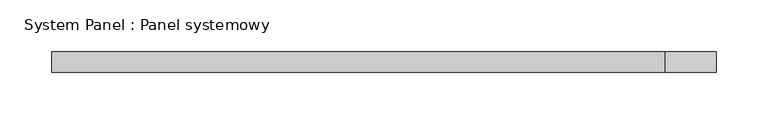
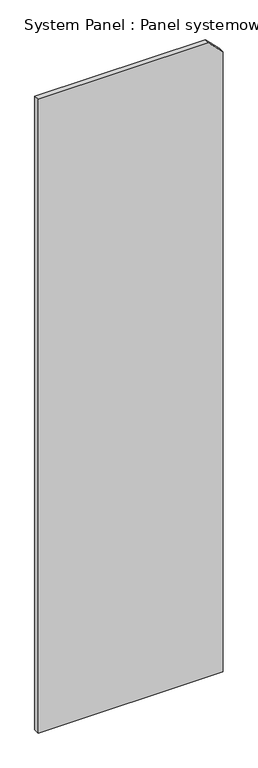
"""IFC4 building model written with IfcOpenShell, lengths in millimetres: plate geometry, System Panel : Panel systemowy."""

from ifc_helpers import new_model, si_unit, frame, origin, place, context, project, spatial, polyline, outline, extrude, source, transform, mapped, element, save


def system_panel_panel_systemowy_d53f1bdc(model_context):
    return source(origin(), model_context, "Body", "SweptSolid", [
        extrude(outline(polyline([(0.0, -320.8333333), (0.0, 320.8333333), (2275.7359314, 320.8333333), (2325.0, 271.5692647), (2325.0, -320.8333333), (0.0, -320.8333333)])), frame((0.0, -10.0, 0.0), z_axis=(0.0, 1.0, 0.0), x_axis=(0.0, 0.0, 1.0)), (0.0, 0.0, 1.0), 20.0),
    ])


if __name__ == "__main__":
    model = new_model("IFC4")
    model_context = context("Model", 3, world=origin())
    ifc_project = project(units=[si_unit("LENGTHUNIT", "METRE", prefix="MILLI")], contexts=[model_context])
    site = spatial("IfcSite", under=ifc_project)
    building = spatial("IfcBuilding", under=site)
    placement = place(None, origin())
    system_panel_panel_systemowy_shape = system_panel_panel_systemowy_d53f1bdc(model_context)
    element("IfcPlate", 1, ObjectType="System Panel : Panel systemowy", at=placement, inside=building, context=model_context, shape_type="MappedRepresentation", body=[
        mapped(system_panel_panel_systemowy_shape, transform((0.0, 0.0, 0.0), x_axis=(1.0, 0.0, 0.0), y_axis=(0.0, 1.0, 0.0), z_axis=(0.0, 0.0, 1.0))),
    ])
    save(model, "model.ifc")
